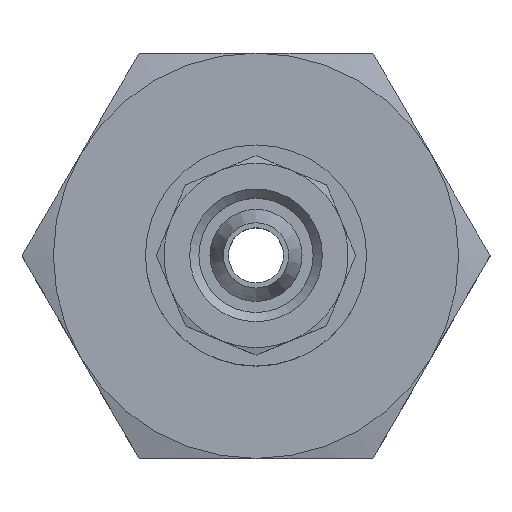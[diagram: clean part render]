
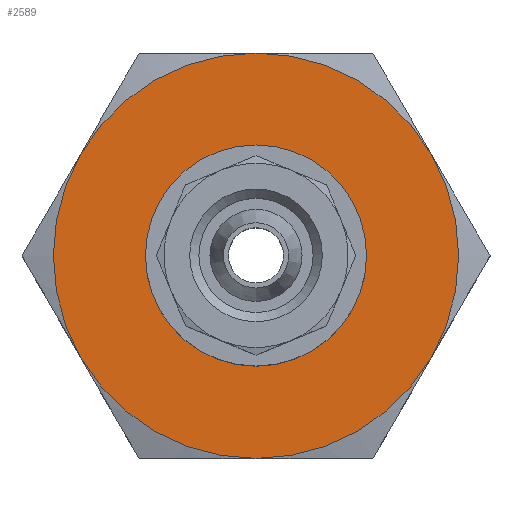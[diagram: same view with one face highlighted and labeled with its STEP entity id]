
A CAD part, top view. The second image highlights one B-rep face of the part: STEP entity #2589.
In plain terms, the highlighted planar face has unit normal (0, 0, 1) as drawn and (0, 1, 0) by its records, which use the part's own axes.
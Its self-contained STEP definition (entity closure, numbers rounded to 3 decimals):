
#1196=PLANE('',#2464);
#1337=ORIENTED_EDGE('',*,*,#1610,.T.);
#1338=ORIENTED_EDGE('',*,*,#1611,.T.);
#1339=ORIENTED_EDGE('',*,*,#1612,.T.);
#1340=ORIENTED_EDGE('',*,*,#1608,.T.);
#1341=ORIENTED_EDGE('',*,*,#1613,.F.);
#1342=ORIENTED_EDGE('',*,*,#1614,.T.);
#1343=ORIENTED_EDGE('',*,*,#1615,.F.);
#1452=CIRCLE('',#2462,11.);
#1453=CIRCLE('',#2465,11.);
#1454=CIRCLE('',#2466,11.);
#1455=CIRCLE('',#2467,11.);
#1456=CIRCLE('',#2468,11.);
#1457=CIRCLE('',#2469,11.);
#1458=CIRCLE('',#2470,4.25);
#1515=VERTEX_POINT('',#2277);
#1517=VERTEX_POINT('',#2284);
#1518=VERTEX_POINT('',#2288);
#1519=VERTEX_POINT('',#2289);
#1520=VERTEX_POINT('',#2291);
#1521=VERTEX_POINT('',#2294);
#1522=VERTEX_POINT('',#2297);
#1608=EDGE_CURVE('',#1515,#1517,#1452,.T.);
#1610=EDGE_CURVE('',#1518,#1519,#1453,.T.);
#1611=EDGE_CURVE('',#1519,#1520,#1454,.T.);
#1612=EDGE_CURVE('',#1520,#1515,#1455,.T.);
#1613=EDGE_CURVE('',#1521,#1517,#1456,.T.);
#1614=EDGE_CURVE('',#1521,#1518,#1457,.T.);
#1615=EDGE_CURVE('',#1522,#1522,#1458,.T.);
#1693=EDGE_LOOP('',(#1337,#1338,#1339,#1340,#1341,#1342));
#1694=EDGE_LOOP('',(#1343));
#1779=FACE_BOUND('',#1693,.T.);
#1780=FACE_BOUND('',#1694,.T.);
#2001=DIRECTION('',(0.,1.,0.));
#2002=DIRECTION('',(0.,0.,-11.));
#2005=DIRECTION('',(0.,1.,0.));
#2006=DIRECTION('',(1.,0.,0.));
#2007=DIRECTION('',(0.,1.,0.));
#2008=DIRECTION('',(0.,0.,-11.));
#2009=DIRECTION('',(0.,1.,0.));
#2010=DIRECTION('',(0.,0.,-11.));
#2011=DIRECTION('',(0.,1.,0.));
#2012=DIRECTION('',(0.,0.,-11.));
#2013=DIRECTION('',(0.,-1.,0.));
#2014=DIRECTION('',(0.,0.,11.));
#2015=DIRECTION('',(0.,1.,0.));
#2016=DIRECTION('',(0.,0.,-11.));
#2017=DIRECTION('',(0.,1.,0.));
#2018=DIRECTION('',(0.,0.,-4.25));
#2277=CARTESIAN_POINT('',(1.389,23.784,5.5));
#2284=CARTESIAN_POINT('',(10.916,23.784,11.));
#2285=CARTESIAN_POINT('',(10.916,23.784,0.));
#2287=CARTESIAN_POINT('',(10.916,23.784,11.));
#2288=CARTESIAN_POINT('',(20.442,23.784,-5.5));
#2289=CARTESIAN_POINT('',(10.916,23.784,-11.));
#2290=CARTESIAN_POINT('',(10.916,23.784,0.));
#2291=CARTESIAN_POINT('',(1.389,23.784,-5.5));
#2292=CARTESIAN_POINT('',(10.916,23.784,0.));
#2293=CARTESIAN_POINT('',(10.916,23.784,0.));
#2294=CARTESIAN_POINT('',(20.442,23.784,5.5));
#2295=CARTESIAN_POINT('',(10.916,23.784,0.));
#2296=CARTESIAN_POINT('',(10.916,23.784,0.));
#2297=CARTESIAN_POINT('',(10.916,23.784,-4.25));
#2298=CARTESIAN_POINT('',(10.916,23.784,0.));
#2462=AXIS2_PLACEMENT_3D('',#2285,#2001,#2002);
#2464=AXIS2_PLACEMENT_3D('',#2287,#2005,#2006);
#2465=AXIS2_PLACEMENT_3D('',#2290,#2007,#2008);
#2466=AXIS2_PLACEMENT_3D('',#2292,#2009,#2010);
#2467=AXIS2_PLACEMENT_3D('',#2293,#2011,#2012);
#2468=AXIS2_PLACEMENT_3D('',#2295,#2013,#2014);
#2469=AXIS2_PLACEMENT_3D('',#2296,#2015,#2016);
#2470=AXIS2_PLACEMENT_3D('',#2298,#2017,#2018);
#2589=ADVANCED_FACE('',(#1779,#1780),#1196,.T.);
